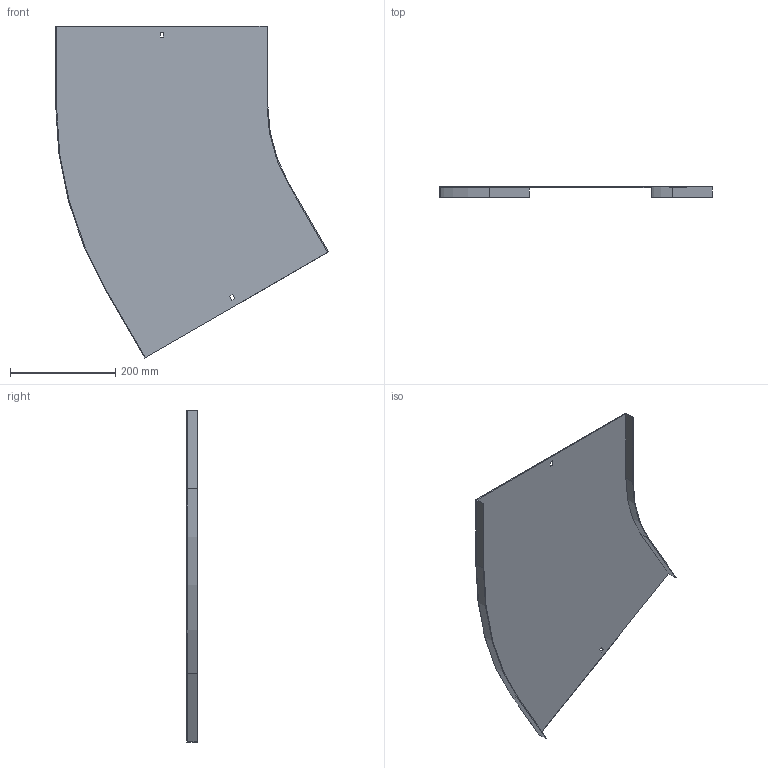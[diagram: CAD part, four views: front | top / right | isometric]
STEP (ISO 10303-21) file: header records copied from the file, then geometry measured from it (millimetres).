
FILE_DESCRIPTION (( 'STEP AP214' ), '1' );
FILE_NAME ('A2_12N3R400.step', '2025-02-21T10:48:55', ( '' ), ( '' ), 'SwSTEP 2.0', 'SolidWorks 2023', '' );
FILE_SCHEMA (( 'AUTOMOTIVE_DESIGN' ));
Length unit declared in the file: millimetre
Products named in the file (1): A2_12N3R400
Bounding box: 517.99 x 20 x 630.65 mm (x, y, z)
Volume: 370612.1 mm3; surface area: 497247.9 mm2
Topology: 1 solids, 1 shells, 26 faces, 72 edges, 48 vertices
Faces by surface type: plane 22, cylinder 4
Entity records: 855 total; most frequent: CARTESIAN_POINT 147, ORIENTED_EDGE 144, DIRECTION 134, EDGE_CURVE 72, LINE 64, VECTOR 64, VERTEX_POINT 48, AXIS2_PLACEMENT_3D 35
